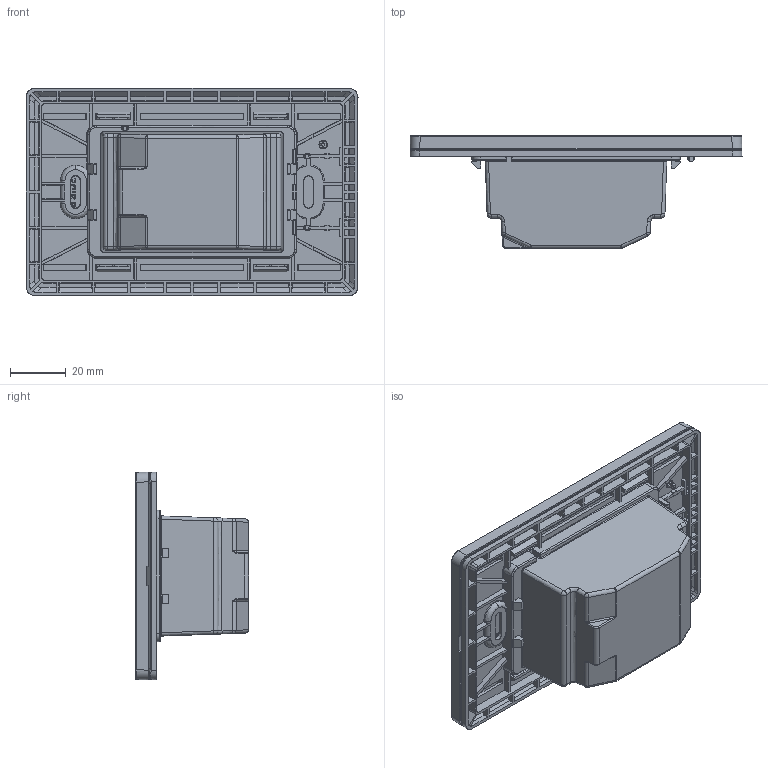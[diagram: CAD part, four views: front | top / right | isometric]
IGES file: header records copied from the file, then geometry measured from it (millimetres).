
Start section: SolidWorks IGES file using analytic representation for surfaces
Global section: file name: D:\DROPBOX\Oz Cohen DesignHouse's shared workspace\CLIENTS\ACTIVE PROJECTS\RMN\RMN PORTABLE STATION\DIMMER FOR BOX\RMN_DIMMER_FOR BOX.IGS; native system: SolidWorks 2020; preprocessor: SolidWorks 2020; author: ozcoh; date: 211006.181358; units: millimetre
Bounding box: 119 x 40.6 x 74.5 mm (x, y, z)
Surface area: 46955 mm2 (no closed solid volume)
Topology: 0 solids, 0 shells, 1763 faces, 13670 edges, 13662 vertices
Faces by surface type: bspline 1445, revolution 318
